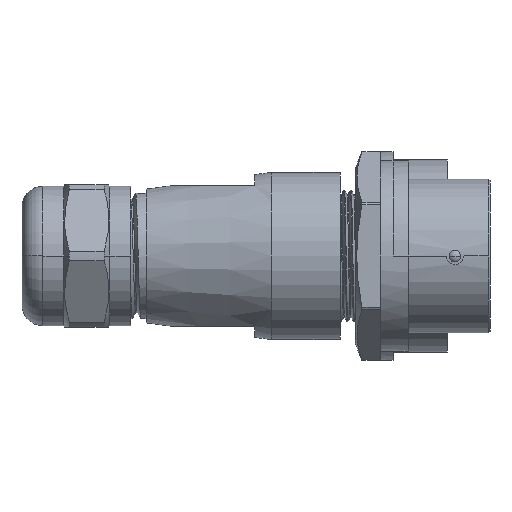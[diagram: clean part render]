
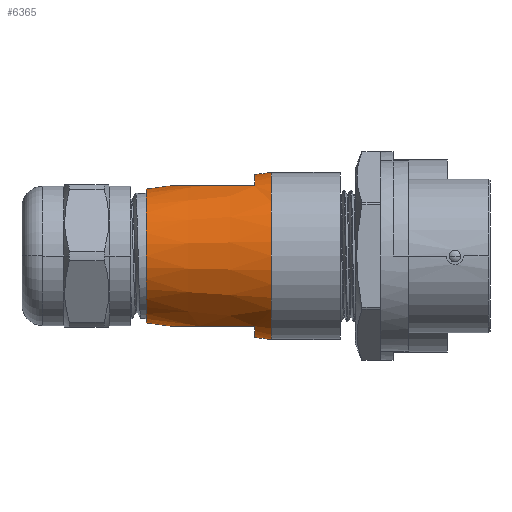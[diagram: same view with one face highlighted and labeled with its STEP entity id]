
A CAD part, front view. The second image highlights one B-rep face of the part: STEP entity #6365.
In plain terms, the highlighted conical face has half-angle 7.595 degrees and reference radius 9 mm.
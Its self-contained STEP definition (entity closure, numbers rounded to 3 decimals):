
#1539=CARTESIAN_POINT('',(-26.552,0.,8.4));
#1541=DIRECTION('',(-0.991,0.,-0.132));
#1542=VECTOR('',#1541,3.027);
#1543=CARTESIAN_POINT('',(-26.552,0.,8.4));
#1544=LINE('',#1543,#1542);
#1575=DIRECTION('',(-0.991,0.,-0.132));
#1576=VECTOR('',#1575,2.018);
#1577=CARTESIAN_POINT('',(-14.552,0.,10.));
#1578=LINE('',#1577,#1576);
#1584=CARTESIAN_POINT('',(-16.552,0.,0.));
#1585=DIRECTION('',(1.,0.,0.));
#1586=DIRECTION('',(0.,0.,1.));
#1587=AXIS2_PLACEMENT_3D('',#1584,#1585,#1586);
#1589=CARTESIAN_POINT('',(-14.552,0.,0.));
#1590=DIRECTION('',(1.,0.,0.));
#1591=DIRECTION('',(0.,0.,1.));
#1592=AXIS2_PLACEMENT_3D('',#1589,#1590,#1591);
#1594=DIRECTION('',(-0.991,0.,0.132));
#1595=VECTOR('',#1594,2.018);
#1596=CARTESIAN_POINT('',(-14.552,0.,-10.));
#1597=LINE('',#1596,#1595);
#1598=CARTESIAN_POINT('',(-16.552,-4.917,
-8.4));
#1599=CARTESIAN_POINT('',(-17.01,-4.796,
-8.4));
#1600=CARTESIAN_POINT('',(-17.881,-4.56,
-8.4));
#1601=CARTESIAN_POINT('',(-19.041,-4.226,
-8.4));
#1602=CARTESIAN_POINT('',(-20.076,-3.909,
-8.4));
#1603=CARTESIAN_POINT('',(-20.997,-3.608,
-8.4));
#1604=CARTESIAN_POINT('',(-21.816,-3.321,
-8.4));
#1605=CARTESIAN_POINT('',(-22.543,-3.047,
-8.4));
#1606=CARTESIAN_POINT('',(-23.189,-2.784,
-8.4));
#1607=CARTESIAN_POINT('',(-23.762,-2.531,
-8.4));
#1608=CARTESIAN_POINT('',(-24.267,-2.287,
-8.4));
#1609=CARTESIAN_POINT('',(-24.709,-2.051,
-8.4));
#1610=CARTESIAN_POINT('',(-25.092,-1.823,
-8.4));
#1611=CARTESIAN_POINT('',(-25.422,-1.603,
-8.4));
#1612=CARTESIAN_POINT('',(-25.701,-1.391,
-8.4));
#1613=CARTESIAN_POINT('',(-25.932,-1.186,
-8.4));
#1614=CARTESIAN_POINT('',(-26.121,-0.991,
-8.4));
#1615=CARTESIAN_POINT('',(-26.269,-0.804,
-8.4));
#1616=CARTESIAN_POINT('',(-26.382,-0.626,
-8.4));
#1617=CARTESIAN_POINT('',(-26.462,-0.459,
-8.4));
#1618=CARTESIAN_POINT('',(-26.515,-0.301,
-8.4));
#1619=CARTESIAN_POINT('',(-26.545,-0.149,
-8.4));
#1620=CARTESIAN_POINT('',(-26.552,-0.049,
-8.4));
#1621=CARTESIAN_POINT('',(-26.552,0.,-8.4));
#1623=DIRECTION('',(-0.991,0.,0.132));
#1624=VECTOR('',#1623,3.027);
#1625=CARTESIAN_POINT('',(-26.552,0.,-8.4));
#1626=LINE('',#1625,#1624);
#1627=CARTESIAN_POINT('',(-26.552,0.,8.4));
#1628=CARTESIAN_POINT('',(-26.552,-0.049,
8.4));
#1629=CARTESIAN_POINT('',(-26.545,-0.149,
8.4));
#1630=CARTESIAN_POINT('',(-26.515,-0.299,
8.4));
#1631=CARTESIAN_POINT('',(-26.463,-0.456,
8.4));
#1632=CARTESIAN_POINT('',(-26.383,-0.623,
8.4));
#1633=CARTESIAN_POINT('',(-26.271,-0.801,
8.4));
#1634=CARTESIAN_POINT('',(-26.122,-0.989,
8.4));
#1635=CARTESIAN_POINT('',(-25.933,-1.186,
8.4));
#1636=CARTESIAN_POINT('',(-25.701,-1.391,
8.4));
#1637=CARTESIAN_POINT('',(-25.421,-1.603,
8.4));
#1638=CARTESIAN_POINT('',(-25.091,-1.824,
8.4));
#1639=CARTESIAN_POINT('',(-24.707,-2.052,
8.4));
#1640=CARTESIAN_POINT('',(-24.266,-2.287,
8.4));
#1641=CARTESIAN_POINT('',(-23.762,-2.531,
8.4));
#1642=CARTESIAN_POINT('',(-23.189,-2.785,
8.4));
#1643=CARTESIAN_POINT('',(-22.541,-3.048,
8.4));
#1644=CARTESIAN_POINT('',(-21.813,-3.322,
8.4));
#1645=CARTESIAN_POINT('',(-20.993,-3.609,
8.4));
#1646=CARTESIAN_POINT('',(-20.072,-3.91,
8.4));
#1647=CARTESIAN_POINT('',(-19.039,-4.226,
8.4));
#1648=CARTESIAN_POINT('',(-17.88,-4.56,
8.4));
#1649=CARTESIAN_POINT('',(-17.01,-4.796,
8.4));
#1650=CARTESIAN_POINT('',(-16.552,-4.917,
8.4));
#1661=CARTESIAN_POINT('',(-16.552,0.,0.));
#1662=DIRECTION('',(1.,0.,0.));
#1663=DIRECTION('',(0.,-0.505,-0.863));
#1664=AXIS2_PLACEMENT_3D('',#1661,#1662,#1663);
#1666=CARTESIAN_POINT('',(-29.552,0.,0.));
#1667=DIRECTION('',(1.,0.,0.));
#1668=DIRECTION('',(0.,0.,1.));
#1669=AXIS2_PLACEMENT_3D('',#1666,#1667,#1668);
#3859=CARTESIAN_POINT('',(-14.552,0.,10.));
#3860=CARTESIAN_POINT('',(-14.552,0.,-10.));
#3861=VERTEX_POINT('',#3859);
#3862=VERTEX_POINT('',#3860);
#3864=CARTESIAN_POINT('',(-16.552,0.,
9.733));
#3866=VERTEX_POINT('',#3864);
#3867=VERTEX_POINT('',#1539);
#3868=CARTESIAN_POINT('',(-29.552,0.,8.));
#3869=VERTEX_POINT('',#3868);
#3870=CARTESIAN_POINT('',(-29.552,0.,-8.));
#3871=VERTEX_POINT('',#3870);
#3872=CARTESIAN_POINT('',(-26.552,0.,-8.4));
#3873=VERTEX_POINT('',#3872);
#3875=CARTESIAN_POINT('',(-16.552,0.,
-9.733));
#3876=VERTEX_POINT('',#3875);
#3877=CARTESIAN_POINT('',(-16.552,-4.917,
8.4));
#3878=VERTEX_POINT('',#3877);
#3879=CARTESIAN_POINT('',(-16.552,-4.917,
-8.4));
#3880=VERTEX_POINT('',#3879);
#6344=CARTESIAN_POINT('',(-22.052,0.,0.));
#6345=DIRECTION('',(1.,0.,0.));
#6346=DIRECTION('',(0.,0.,1.));
#6347=AXIS2_PLACEMENT_3D('',#6344,#6345,#6346);
#6348=CONICAL_SURFACE('',#6347,9.,7.595);
#6349=ORIENTED_EDGE('',*,*,#6337,.F.);
#6350=ORIENTED_EDGE('',*,*,#6326,.F.);
#6351=ORIENTED_EDGE('',*,*,#6284,.T.);
#6352=ORIENTED_EDGE('',*,*,#6323,.T.);
#6354=ORIENTED_EDGE('',*,*,#6353,.F.);
#6356=ORIENTED_EDGE('',*,*,#6355,.T.);
#6357=ORIENTED_EDGE('',*,*,#6317,.T.);
#6359=ORIENTED_EDGE('',*,*,#6358,.F.);
#6360=ORIENTED_EDGE('',*,*,#6313,.F.);
#6362=ORIENTED_EDGE('',*,*,#6361,.T.);
#6363=EDGE_LOOP('',(#6349,#6350,#6351,#6352,#6354,#6356,#6357,#6359,#6360,
#6362));
#6364=FACE_OUTER_BOUND('',#6363,.F.);
#6365=ADVANCED_FACE('',(#6364),#6348,.T.);
#1588=CIRCLE('',#1587,9.733);
#1593=CIRCLE('',#1592,10.);
#1622=B_SPLINE_CURVE_WITH_KNOTS('',3,(#1598,#1599,#1600,#1601,#1602,#1603,#1604,
#1605,#1606,#1607,#1608,#1609,#1610,#1611,#1612,#1613,#1614,#1615,#1616,#1617,
#1618,#1619,#1620,#1621),.UNSPECIFIED.,.F.,.F.,(4,1,1,1,1,1,1,1,1,1,1,1,1,1,1,1,
1,1,1,1,1,4),(0.,0.048,0.095,0.143,
0.19,0.238,0.286,0.333,
0.381,0.429,0.476,0.524,
0.571,0.619,0.667,0.714,
0.762,0.81,0.857,0.905,
0.952,1.),.UNSPECIFIED.);
#1651=B_SPLINE_CURVE_WITH_KNOTS('',3,(#1627,#1628,#1629,#1630,#1631,#1632,#1633,
#1634,#1635,#1636,#1637,#1638,#1639,#1640,#1641,#1642,#1643,#1644,#1645,#1646,
#1647,#1648,#1649,#1650),.UNSPECIFIED.,.F.,.F.,(4,1,1,1,1,1,1,1,1,1,1,1,1,1,1,1,
1,1,1,1,1,4),(0.,0.048,0.095,0.143,
0.19,0.238,0.286,0.333,
0.381,0.429,0.476,0.524,
0.571,0.619,0.667,0.714,
0.762,0.81,0.857,0.905,
0.952,1.),.UNSPECIFIED.);
#1665=CIRCLE('',#1664,9.733);
#1670=CIRCLE('',#1669,8.);
#6284=EDGE_CURVE('',#3861,#3862,#1593,.T.);
#6313=EDGE_CURVE('',#3867,#3869,#1544,.T.);
#6317=EDGE_CURVE('',#3873,#3871,#1626,.T.);
#6323=EDGE_CURVE('',#3862,#3876,#1597,.T.);
#6326=EDGE_CURVE('',#3861,#3866,#1578,.T.);
#6337=EDGE_CURVE('',#3866,#3878,#1588,.T.);
#6353=EDGE_CURVE('',#3880,#3876,#1665,.T.);
#6355=EDGE_CURVE('',#3880,#3873,#1622,.T.);
#6358=EDGE_CURVE('',#3869,#3871,#1670,.T.);
#6361=EDGE_CURVE('',#3867,#3878,#1651,.T.);
